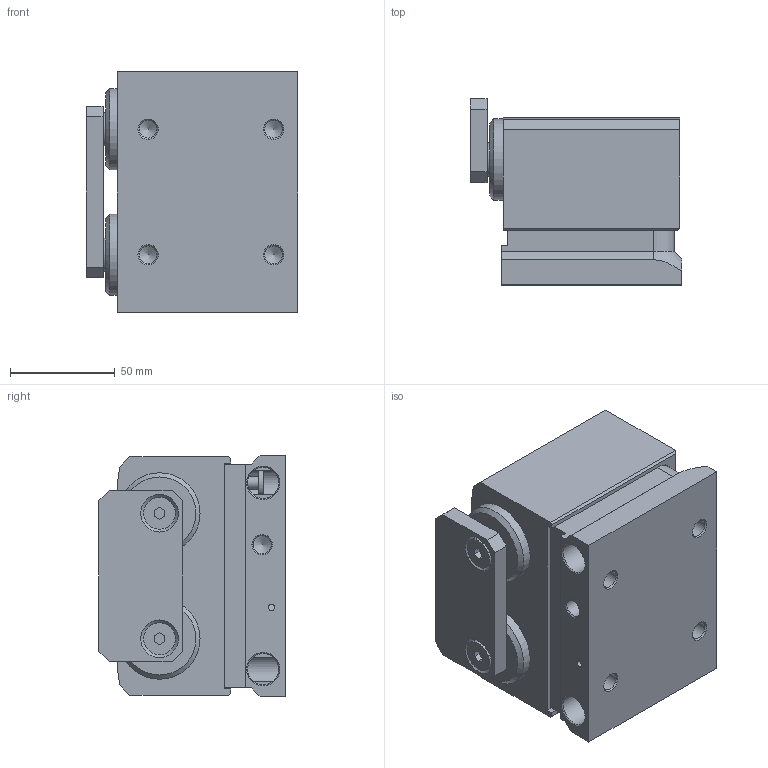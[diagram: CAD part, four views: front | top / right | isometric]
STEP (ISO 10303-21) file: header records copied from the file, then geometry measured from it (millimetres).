
FILE_DESCRIPTION (( 'STEP AP203' ), '1' );
FILE_NAME ('ASUTEC-ASM-260-EW-09-I.STEP', '2017-05-23T08:46:51', ( '' ), ( '' ), 'SwSTEP 2.0', 'SolidWorks 2015', '' );
FILE_SCHEMA (( 'CONFIG_CONTROL_DESIGN' ));
Length unit declared in the file: metre
Products named in the file (1): ASUTEC-ASM-260-EW-09-I
Bounding box: 101 x 89 x 115 mm (x, y, z)
Volume: 647796.8 mm3; surface area: 127675.2 mm2
Topology: 3 solids, 3 shells, 409 faces, 1037 edges, 686 vertices
Faces by surface type: plane 261, cylinder 72, bspline 57, cone 19
Full cylindrical faces by diameter (mm): 3 x1, 3.3 x2, 5.5 x1, 6 x2, 8.5 x4, 8.7 x1, 13 x2, 14 x2, 15 x2, 15.2 x2, 16 x4, 20 x2, 35 x4, 38.7 x2, 44 x2
Entity records: 15535 total; most frequent: CARTESIAN_POINT 6171, ORIENTED_EDGE 1932, DIRECTION 1702, EDGE_CURVE 966, LINE 684, VECTOR 684, VERTEX_POINT 665, EDGE_LOOP 519
